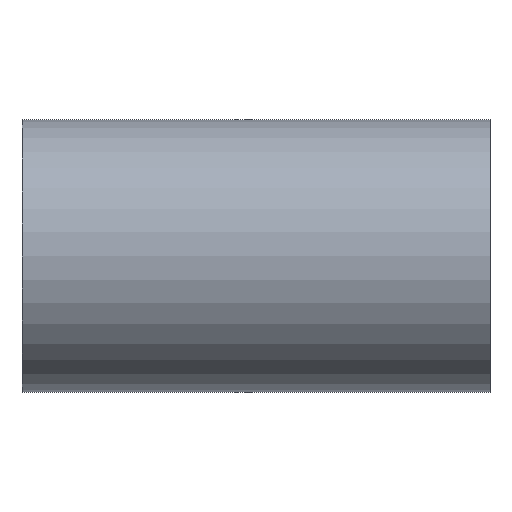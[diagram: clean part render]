
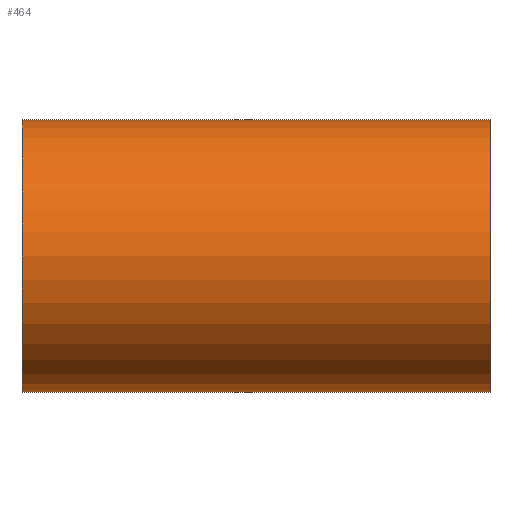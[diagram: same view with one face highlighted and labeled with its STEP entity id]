
A CAD part, front view. The second image highlights one B-rep face of the part: STEP entity #464.
In plain terms, the highlighted cylindrical face has radius 50.8 mm (diameter 101.6 mm), a partial arc.
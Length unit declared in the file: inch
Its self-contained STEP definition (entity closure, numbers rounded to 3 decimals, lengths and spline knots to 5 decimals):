
#6 = EDGE_CURVE ( 'NONE', #162, #264, #237, .T. ) ;
#25 = VECTOR ( 'NONE', #272, 39.37008 ) ;
#36 = CARTESIAN_POINT ( 'NONE',  ( -3.4375, 0., 0. ) ) ;
#45 = ORIENTED_EDGE ( 'NONE', *, *, #301, .T. ) ;
#56 = VERTEX_POINT ( 'NONE', #332 ) ;
#62 = DIRECTION ( 'NONE',  ( -1., 0., 0. ) ) ;
#72 = DIRECTION ( 'NONE',  ( 1., 0., 0. ) ) ;
#91 = CARTESIAN_POINT ( 'NONE',  ( 3.4375, 0., 2. ) ) ;
#106 = VECTOR ( 'NONE', #257, 39.37008 ) ;
#115 = CIRCLE ( 'NONE', #297, 2. ) ;
#128 = CARTESIAN_POINT ( 'NONE',  ( 3.4375, 0., 2. ) ) ;
#136 = AXIS2_PLACEMENT_3D ( 'NONE', #446, #62, #358 ) ;
#137 = EDGE_CURVE ( 'NONE', #267, #56, #115, .T. ) ;
#140 = ORIENTED_EDGE ( 'NONE', *, *, #137, .F. ) ;
#146 = FACE_OUTER_BOUND ( 'NONE', #437, .T. ) ;
#162 = VERTEX_POINT ( 'NONE', #423 ) ;
#237 = CIRCLE ( 'NONE', #523, 2. ) ;
#257 = DIRECTION ( 'NONE',  ( -1., 0., 0. ) ) ;
#264 = VERTEX_POINT ( 'NONE', #421 ) ;
#267 = VERTEX_POINT ( 'NONE', #128 ) ;
#272 = DIRECTION ( 'NONE',  ( -1., 0., 0. ) ) ;
#288 = ORIENTED_EDGE ( 'NONE', *, *, #6, .T. ) ;
#297 = AXIS2_PLACEMENT_3D ( 'NONE', #419, #382, #538 ) ;
#301 = EDGE_CURVE ( 'NONE', #267, #162, #303, .T. ) ;
#303 = LINE ( 'NONE', #91, #106 ) ;
#315 = CYLINDRICAL_SURFACE ( 'NONE', #136, 2. ) ;
#327 = DIRECTION ( 'NONE',  ( 0., 0., -1. ) ) ;
#332 = CARTESIAN_POINT ( 'NONE',  ( 3.4375, 0., -2. ) ) ;
#358 = DIRECTION ( 'NONE',  ( 0., 0., 1. ) ) ;
#382 = DIRECTION ( 'NONE',  ( 1., 0., 0. ) ) ;
#390 = EDGE_CURVE ( 'NONE', #56, #264, #487, .T. ) ;
#418 = ORIENTED_EDGE ( 'NONE', *, *, #390, .F. ) ;
#419 = CARTESIAN_POINT ( 'NONE',  ( 3.4375, 0., 0. ) ) ;
#421 = CARTESIAN_POINT ( 'NONE',  ( -3.4375, 0., -2. ) ) ;
#423 = CARTESIAN_POINT ( 'NONE',  ( -3.4375, 0., 2. ) ) ;
#437 = EDGE_LOOP ( 'NONE', ( #418, #140, #45, #288 ) ) ;
#446 = CARTESIAN_POINT ( 'NONE',  ( 3.4375, 0., 0. ) ) ;
#450 = CARTESIAN_POINT ( 'NONE',  ( 3.4375, 0., -2. ) ) ;
#464 = ADVANCED_FACE ( 'NONE', ( #146 ), #315, .T. ) ;
#487 = LINE ( 'NONE', #450, #25 ) ;
#523 = AXIS2_PLACEMENT_3D ( 'NONE', #36, #72, #327 ) ;
#538 = DIRECTION ( 'NONE',  ( 0., 0., -1. ) ) ;
